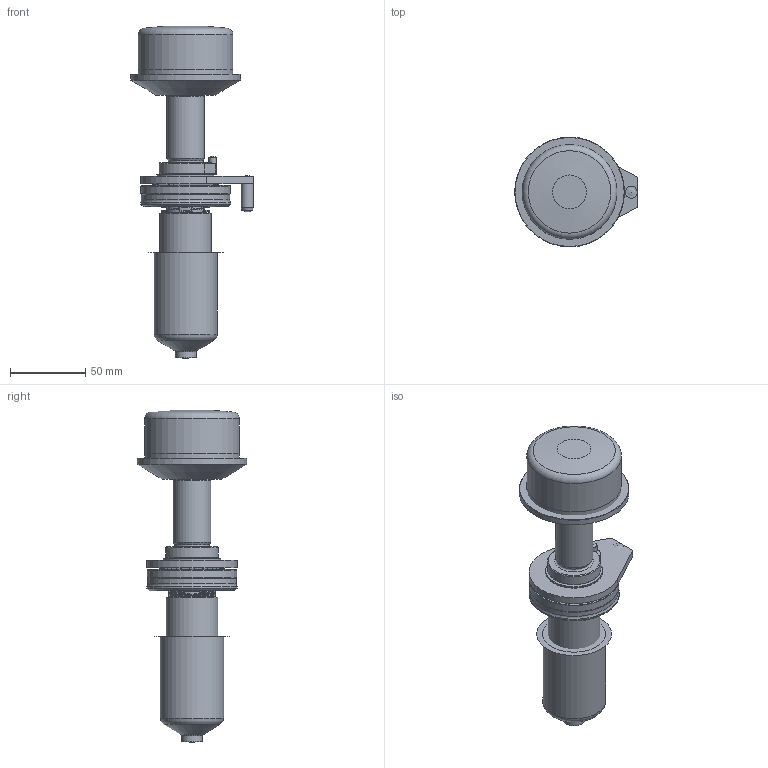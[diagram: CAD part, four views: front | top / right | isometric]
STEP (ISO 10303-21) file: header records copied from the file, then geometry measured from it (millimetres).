
FILE_DESCRIPTION(/* description */ (''),/* implementation_level */ '2;1');
FILE_NAME(/* name */ 'U1000 VX.stp',/* time_stamp */ '2021-12-24T16:04:15+08:00',/* author */ (''),/* organization */ (''),/* preprocessor_version */ 'ST-DEVELOPER v16',/* originating_system */ 'SIEMENS PLM Software NX 11.0',/* authorisation */ '');
FILE_SCHEMA (('AUTOMOTIVE_DESIGN { 1 0 10303 214 3 1 1 1 }'));
Length unit declared in the file: millimetre
Products named in the file (18): 3D_EXPORT_3D_ASSY_11317448_0_id6_x_t; 3D_EXPORT_3D_ASSY_11317448_0_id11_x_t; 3D_EXPORT_3D_ASSY_11317448_0_id16_x_t; 3D_EXPORT_3D_ASSY_11317448_0_id21_x_t; 3D_EXPORT_3D_ASSY_11317448_0_id26_x_t; 3D_EXPORT_3D_ASSY_11317448_0_id31_x_t; 3D_EXPORT_3D_ASSY_11317448_0_id36_x_t; 3D_EXPORT_3D_ASSY_11317448_0_id41_x_t; 3D_EXPORT_3D_ASSY_11317448_0_id46_x_t; 3D_EXPORT_3D_ASSY_11317448_0_id51_x_t; 3D_EXPORT_3D_ASSY_11317448_0_id56_x_t; 3D_EXPORT_3D_ASSY_11317448_0_id61_x_t; 3D_EXPORT_3D_ASSY_11317448_0_id66_x_t; 3D_EXPORT_3D_ASSY_11317448_0_id71_x_t; 3D_EXPORT_3D_ASSY_11317448_0_id78_x_t; 3D_EXPORT_3D_ASSY_11317448_0_id85_x_t; 3D_EXPORT_3D_ASSY_11317448_0_id90_x_t; 3D_EXPORT_3D_ASSY_11317448_0_x_t
Assembly tree (19 placements, depth 2):
  3D_EXPORT_3D_ASSY_11317448_0_x_t
    3D_EXPORT_3D_ASSY_11317448_0_id90_x_t
    3D_EXPORT_3D_ASSY_11317448_0_id85_x_t
    3D_EXPORT_3D_ASSY_11317448_0_id78_x_t  x2
    3D_EXPORT_3D_ASSY_11317448_0_id71_x_t  x2
    3D_EXPORT_3D_ASSY_11317448_0_id66_x_t
    3D_EXPORT_3D_ASSY_11317448_0_id61_x_t
    3D_EXPORT_3D_ASSY_11317448_0_id56_x_t
    3D_EXPORT_3D_ASSY_11317448_0_id51_x_t
    3D_EXPORT_3D_ASSY_11317448_0_id46_x_t
    3D_EXPORT_3D_ASSY_11317448_0_id41_x_t
    3D_EXPORT_3D_ASSY_11317448_0_id36_x_t
    3D_EXPORT_3D_ASSY_11317448_0_id31_x_t
    3D_EXPORT_3D_ASSY_11317448_0_id26_x_t
    3D_EXPORT_3D_ASSY_11317448_0_id21_x_t
    3D_EXPORT_3D_ASSY_11317448_0_id16_x_t
    3D_EXPORT_3D_ASSY_11317448_0_id11_x_t
    3D_EXPORT_3D_ASSY_11317448_0_id6_x_t
Bounding box: 81.52 x 73.03 x 220.8 mm (x, y, z)
Volume: 468635.2 mm3; surface area: 100606.7 mm2
Topology: 19 solids, 19 shells, 528 faces, 1443 edges, 926 vertices
Faces by surface type: cylinder 256, plane 141, torus 80, cone 48, sphere 3
Full cylindrical faces by diameter (mm): 1.7 x2, 4 x1, 5 x1, 5.88 x1, 5.985 x1, 6.027 x1, 8 x1, 9.2 x1, 13.99 x1, 14 x1, 16.2 x1, 17.5 x2, 17.7 x1, 18.1 x1, 19.925 x1, 21.38 x1, 24.995 x1, 25.4 x2, 25.41 x2, 25.43 x1, 27.27 x1, 31.75 x2, 32.55 x1, 34.44 x1, 38.1 x1, 42 x1, 50 x1, 58.795 x1, 59.5 x1, 59.99 x1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
Entity records: 17423 total; most frequent: CARTESIAN_POINT 4888, ORIENTED_EDGE 1886, DIRECTION 1760, EDGE_CURVE 943, AXIS2_PLACEMENT_3D 722, VERTEX_POINT 657, EDGE_LOOP 566, PRESENTATION_STYLE_ASSIGNMENT 424
